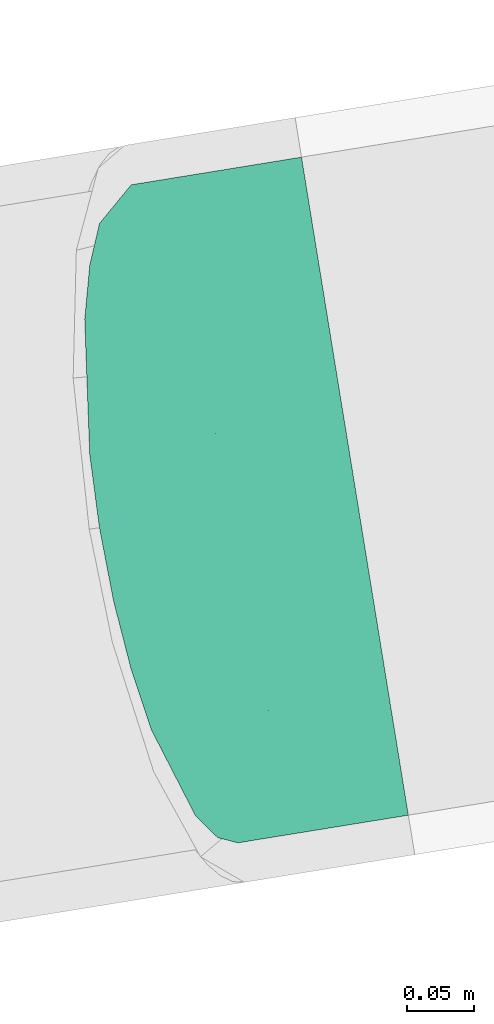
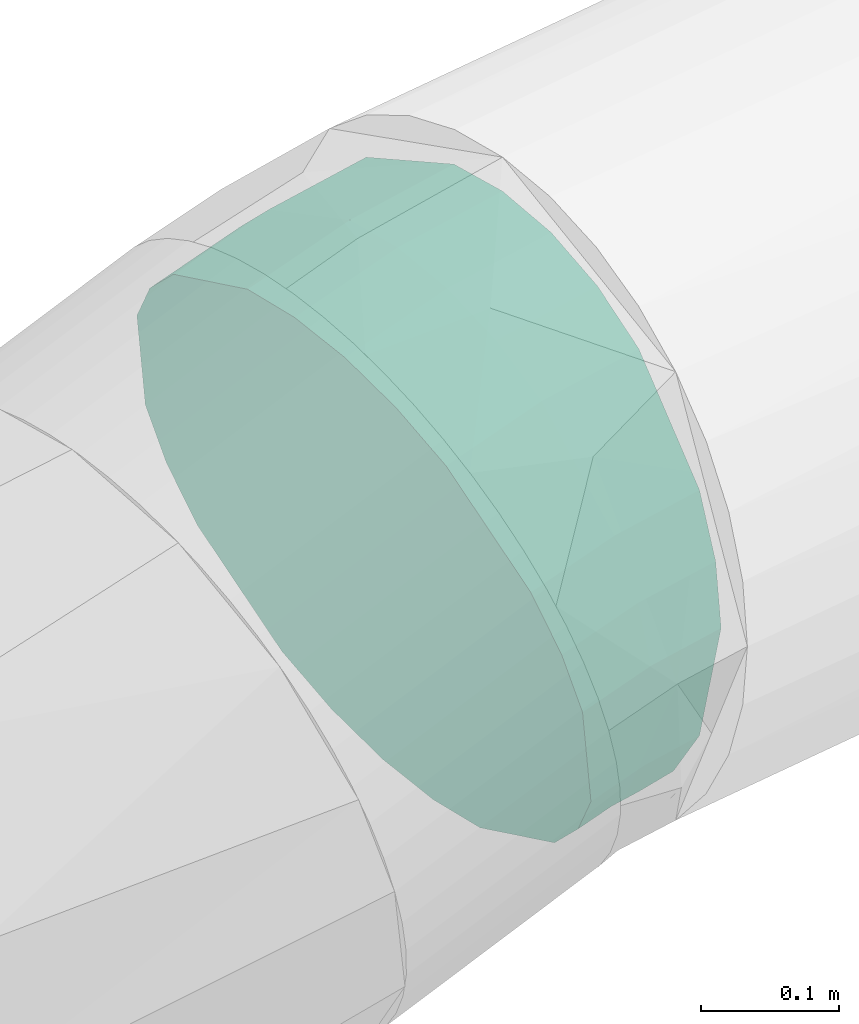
# One storey, part 38 of 39: 1 flow fitting.
"""IFC2X3 building model written with IfcOpenShell, lengths in millimetres."""

from ifc_helpers import new_model, entity, si_unit, converted_unit, derived_unit, direction, frame, origin, origin_with_axes, place, context, subcontext, project, spatial, faceted_brep, source, transform, mapped, material, type_object, element, save


model = new_model("IFC2X3")

# Units and contexts
model_context = context("Model", 3, precision=0.01, world=origin(), true_north=direction((6.12323399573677e-17, 1.0)))
plan_context = context("Plan", 3, precision=1e-05, world=origin_with_axes())
body_context = subcontext(model_context, "Body", "Model", "MODEL_VIEW")
ifc_project = project(units=[converted_unit("PLANEANGLEUNIT", "DEGREE", entity("IfcPositiveLengthMeasure", 0.0174532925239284), si_unit("PLANEANGLEUNIT", "RADIAN"), dimensions=[0, 0, 0, 0, 0, 0, 0]), si_unit("AREAUNIT", "SQUARE_METRE"), si_unit("LENGTHUNIT", "METRE", prefix="MILLI"), si_unit("MASSUNIT", "GRAM", prefix="KILO"), si_unit("POWERUNIT", "WATT"), si_unit("PRESSUREUNIT", "PASCAL", prefix="KILO"), si_unit("FORCEUNIT", "NEWTON", prefix="KILO"), si_unit("ELECTRICVOLTAGEUNIT", "VOLT"), si_unit("ELECTRICCURRENTUNIT", "AMPERE"), si_unit("THERMODYNAMICTEMPERATUREUNIT", "DEGREE_CELSIUS"), si_unit("TIMEUNIT", "SECOND"), si_unit("VOLUMEUNIT", "CUBIC_METRE"), derived_unit("LINEARVELOCITYUNIT", [(si_unit("LENGTHUNIT", "METRE"), 1), (si_unit("TIMEUNIT", "SECOND"), -1)]), derived_unit("VOLUMETRICFLOWRATEUNIT", [(si_unit("VOLUMEUNIT", "CUBIC_METRE"), 1), (si_unit("TIMEUNIT", "SECOND"), -1)]), derived_unit("THERMALTRANSMITTANCEUNIT", [(si_unit("POWERUNIT", "WATT"), 1), (si_unit("THERMODYNAMICTEMPERATUREUNIT", "KELVIN"), -1), (si_unit("AREAUNIT", "SQUARE_METRE"), -1)]), derived_unit("SOUNDPRESSUREUNIT", [(si_unit("PRESSUREUNIT", "PASCAL"), 1)])], contexts=[model_context, plan_context])

# Site, building, storey
site_placement = place(None, frame((-0.00071070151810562, 0.00438415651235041, 0.0), z_axis=(0.0, 0.0, 1.0), x_axis=(-0.160236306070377, 0.987078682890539, 0.0)))
site = spatial("IfcSite", under=ifc_project, at=site_placement, Name="Default", CompositionType="ELEMENT")
building_placement = place(site_placement, origin_with_axes())
building = spatial("IfcBuilding", under=site, at=building_placement, CompositionType="ELEMENT")
storey_placement = place(building_placement, frame((0.0, 0.0, 50999.9999999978), z_axis=(0.0, 0.0, 1.0), x_axis=(1.0, 0.0, 0.0)))
storey = spatial("IfcBuildingStorey", under=building, at=storey_placement, Name="Nivå D", CompositionType="ELEMENT", Elevation=50999.9999999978)

# Flow fitting
ifc_material = material(Name="<Unnamed>")
duct_fitting_type = type_object("IfcDuctFittingType", Name="magicirc_elbow_full_radius_1:magicirc_elbow_full_radius_001", PredefinedType="NOTDEFINED", material=ifc_material)
shared_shape = source(origin(), body_context, "Body", "Brep", [
    faceted_brep([(32.0683953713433, -243.583646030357, 0.0), (31.250254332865, -237.369247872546, 55.6302334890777), (-65.826248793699, -243.731978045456, 55.6302334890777), (-65.826248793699, -250.0, 0.0), (28.8368562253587, -219.037669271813, 108.470934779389), (-65.826248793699, -225.242216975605, 108.470934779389), (24.9492189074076, -189.508132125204, 155.872450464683), (-65.826248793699, -195.457870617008, 155.872450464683), (13.5951453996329, -103.265381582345, 225.242216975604), (-65.8262487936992, -108.470934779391, 225.242216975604), (6.69804986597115, -50.876739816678, 243.731978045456), (-65.8262487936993, -55.6302334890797, 243.731978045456), (-0.563152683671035, 4.27756931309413, 250.0), (-65.8262487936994, 0.0, 250.0), (-14.721450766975, 111.820520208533, 225.242216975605), (-65.8262487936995, 108.470934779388, 225.242216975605), (-20.9085901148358, 158.816509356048, 195.457870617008), (-65.8262487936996, 155.872450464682, 195.457870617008), (-26.0755242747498, 198.063270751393, 155.872450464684), (-65.8262487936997, 195.457870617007, 155.872450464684), (-32.3765597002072, 245.924386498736, 55.6302334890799), (-65.8262487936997, 243.731978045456, 55.6302334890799), (-33.1947007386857, 252.138784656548, 0.0), (-65.8262487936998, 250.0, 0.0), (-32.3765597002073, 245.924386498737, -55.6302334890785), (-65.8262487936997, 243.731978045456, -55.6302334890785), (-29.963161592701, 227.592807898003, -108.470934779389), (-65.8262487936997, 225.242216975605, -108.470934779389), (-26.0755242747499, 198.063270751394, -155.872450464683), (-65.8262487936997, 195.457870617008, -155.872450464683), (-14.7214507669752, 111.820520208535, -225.242216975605), (-65.8262487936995, 108.47093477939, -225.242216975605), (-7.8243552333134, 59.4318784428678, -243.731978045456), (-65.8262487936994, 55.6302334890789, -243.731978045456), (-0.563152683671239, 4.27756931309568, -250.0), (-65.8262487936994, 0.0, -250.0), (13.5951453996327, -103.265381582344, -225.242216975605), (-65.8262487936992, -108.470934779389, -225.242216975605), (19.7822847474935, -150.261370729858, -195.457870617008), (-65.8262487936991, -155.872450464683, -195.457870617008), (24.9492189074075, -189.508132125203, -155.872450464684), (-65.826248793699, -195.457870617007, -155.872450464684), (31.2502543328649, -237.369247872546, -55.6302334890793), (-65.826248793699, -243.731978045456, -55.6302334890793), (128.288035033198, -224.444369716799, 0.0), (126.665751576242, -218.389925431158, 55.6302334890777), (121.880249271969, -200.530187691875, 108.470934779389), (114.171493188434, -171.760718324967, 155.872450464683), (91.6576175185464, -87.7377904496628, 225.242216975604), (77.98143766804, -36.6975923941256, 243.731978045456), (63.5832737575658, 17.0370868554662, 250.0), (35.5089299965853, 121.811964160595, 225.242216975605), (23.2405149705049, 167.598312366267, 195.457870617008), (12.9950543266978, 205.834892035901, 155.872450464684), (0.500795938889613, 252.464099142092, 55.6302334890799), (-1.12148751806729, 258.518543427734, 0.0), (0.500795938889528, 252.464099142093, -55.6302334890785), (5.28629824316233, 234.604361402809, -108.470934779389), (12.9950543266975, 205.834892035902, -155.872450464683), (35.5089299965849, 121.811964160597, -225.242216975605), (49.1851098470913, 70.7717661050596, -243.731978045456), (63.5832737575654, 17.0370868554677, -250.0), (91.657617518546, -87.7377904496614, -225.242216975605), (103.926032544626, -133.524138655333, -195.457870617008), (114.171493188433, -171.760718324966, -155.872450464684), (126.665751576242, -218.389925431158, -55.6302334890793)], [[[0, 1, 2, 3]], [[1, 4, 5, 2]], [[4, 6, 7, 5]], [[6, 8, 9, 7]], [[8, 10, 11, 9]], [[10, 12, 13, 11]], [[12, 14, 15, 13]], [[14, 16, 17, 15]], [[16, 18, 19, 17]], [[18, 20, 21, 19]], [[20, 22, 23, 21]], [[22, 24, 25, 23]], [[24, 26, 27, 25]], [[26, 28, 29, 27]], [[28, 30, 31, 29]], [[30, 32, 33, 31]], [[32, 34, 35, 33]], [[34, 36, 37, 35]], [[36, 38, 39, 37]], [[38, 40, 41, 39]], [[40, 42, 43, 41]], [[42, 0, 3, 43]], [[44, 45, 1, 0]], [[45, 46, 4, 1]], [[46, 47, 6, 4]], [[47, 48, 8, 6]], [[48, 49, 10, 8]], [[49, 50, 12, 10]], [[50, 51, 14, 12]], [[51, 52, 16, 14]], [[52, 53, 18, 16]], [[53, 54, 20, 18]], [[54, 55, 22, 20]], [[55, 56, 24, 22]], [[56, 57, 26, 24]], [[57, 58, 28, 26]], [[58, 59, 30, 28]], [[59, 60, 32, 30]], [[60, 61, 34, 32]], [[61, 62, 36, 34]], [[62, 63, 38, 36]], [[63, 64, 40, 38]], [[64, 65, 42, 40]], [[65, 44, 0, 42]], [[3, 2, 5, 7, 9, 11, 13, 15, 17, 19, 21, 23, 25, 27, 29, 31, 33, 35, 37, 39, 41, 43]], [[65, 64, 63, 62, 61, 60, 59, 58, 57, 56, 55, 54, 53, 52, 51, 50, 49, 48, 47, 46, 45, 44]]]),
])
flow_fitting_placement = place(storey_placement, frame((778911.619644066, -599759.315239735, 3300.0), z_axis=(-1.0, 0.0, 0.0), x_axis=(0.0, 1.0, 0.0)))
element("IfcFlowFitting", 1, at=flow_fitting_placement, inside=storey, type_object=duct_fitting_type, material=ifc_material, Name="magicirc_elbow_full_radius_1:magicirc_elbow_full_radius_001", ObjectType="magicirc_elbow_full_radius_1:magicirc_elbow_full_radius_001", context=body_context, shape_type="MappedRepresentation", body=[
    mapped(shared_shape, transform((0.0, 0.0, 0.0), scale=1.0)),
])

save(model, "model.ifc")
